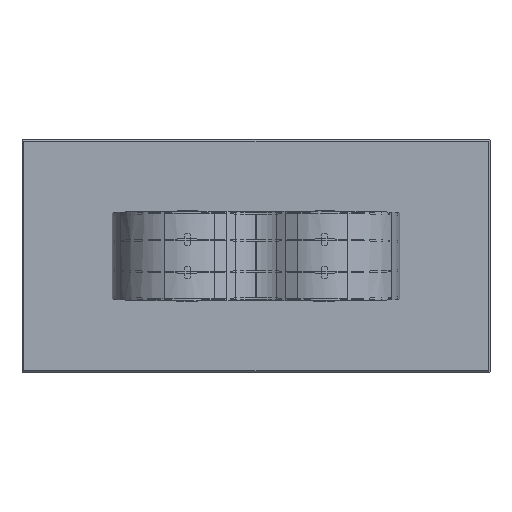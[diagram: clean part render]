
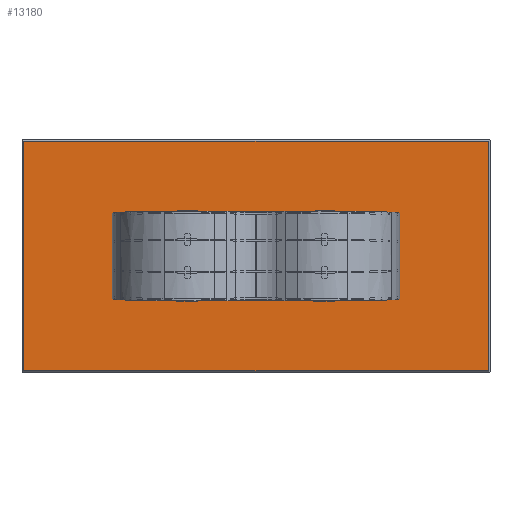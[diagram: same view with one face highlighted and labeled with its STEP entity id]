
A CAD part, front view. The second image highlights one B-rep face of the part: STEP entity #13180.
In plain terms, the highlighted planar face has unit normal (0, -1, 0).
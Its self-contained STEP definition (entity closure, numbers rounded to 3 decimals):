
#1036 = LINE ( 'NONE', #13903, #30613 ) ;
#2925 = VERTEX_POINT ( 'NONE', #37683 ) ;
#8383 = AXIS2_PLACEMENT_3D ( 'NONE', #22046, #41437, #15731 ) ;
#9843 = ORIENTED_EDGE ( 'NONE', *, *, #25553, .T. ) ;
#10022 = VERTEX_POINT ( 'NONE', #26461 ) ;
#10153 = VECTOR ( 'NONE', #37822, 1000. ) ;
#12673 = EDGE_CURVE ( 'NONE', #16759, #2925, #1036, .T. ) ;
#13180 = ADVANCED_FACE ( 'NONE', ( #19322 ), #25852, .F. ) ;
#13903 = CARTESIAN_POINT ( 'NONE',  ( 1187., 0., 0. ) ) ;
#14461 = VECTOR ( 'NONE', #34225, 1000. ) ;
#15444 = LINE ( 'NONE', #24524, #14461 ) ;
#15731 = DIRECTION ( 'NONE',  ( 0., 0., 1. ) ) ;
#16759 = VERTEX_POINT ( 'NONE', #35186 ) ;
#18302 = EDGE_CURVE ( 'NONE', #10022, #16759, #28158, .T. ) ;
#18845 = EDGE_CURVE ( 'NONE', #41711, #10022, #40592, .T. ) ;
#19322 = FACE_OUTER_BOUND ( 'NONE', #38902, .T. ) ;
#22046 = CARTESIAN_POINT ( 'NONE',  ( 0., 0., 0. ) ) ;
#24364 = CARTESIAN_POINT ( 'NONE',  ( 0., 0., -587. ) ) ;
#24524 = CARTESIAN_POINT ( 'NONE',  ( 0., 0., 587. ) ) ;
#24727 = ORIENTED_EDGE ( 'NONE', *, *, #18302, .T. ) ;
#24993 = ORIENTED_EDGE ( 'NONE', *, *, #18845, .T. ) ;
#25553 = EDGE_CURVE ( 'NONE', #2925, #41711, #15444, .T. ) ;
#25852 = PLANE ( 'NONE',  #8383 ) ;
#26461 = CARTESIAN_POINT ( 'NONE',  ( -1187., 0., -587. ) ) ;
#28158 = LINE ( 'NONE', #24364, #10153 ) ;
#29723 = DIRECTION ( 'NONE',  ( 0., 0., 1. ) ) ;
#30613 = VECTOR ( 'NONE', #29723, 1000. ) ;
#31342 = DIRECTION ( 'NONE',  ( 0., 0., -1. ) ) ;
#33847 = ORIENTED_EDGE ( 'NONE', *, *, #12673, .T. ) ;
#34225 = DIRECTION ( 'NONE',  ( -1., 0., 0. ) ) ;
#34282 = CARTESIAN_POINT ( 'NONE',  ( -1187., 0., 0. ) ) ;
#34464 = CARTESIAN_POINT ( 'NONE',  ( -1187., 0., 587. ) ) ;
#35186 = CARTESIAN_POINT ( 'NONE',  ( 1187., 0., -587. ) ) ;
#37683 = CARTESIAN_POINT ( 'NONE',  ( 1187., 0., 587. ) ) ;
#37822 = DIRECTION ( 'NONE',  ( 1., 0., 0. ) ) ;
#38902 = EDGE_LOOP ( 'NONE', ( #33847, #9843, #24993, #24727 ) ) ;
#40455 = VECTOR ( 'NONE', #31342, 1000. ) ;
#40592 = LINE ( 'NONE', #34282, #40455 ) ;
#41437 = DIRECTION ( 'NONE',  ( 0., 1., 0. ) ) ;
#41711 = VERTEX_POINT ( 'NONE', #34464 ) ;
